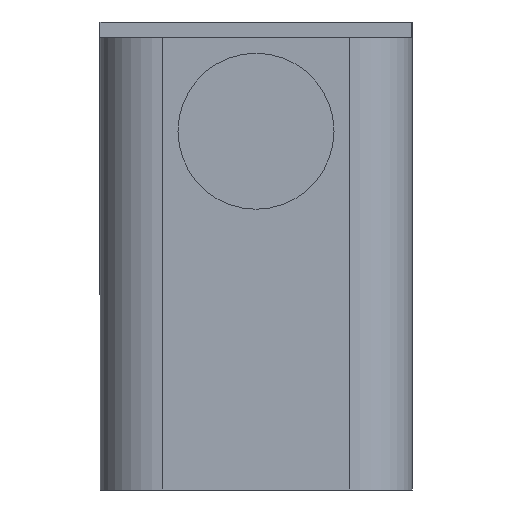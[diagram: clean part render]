
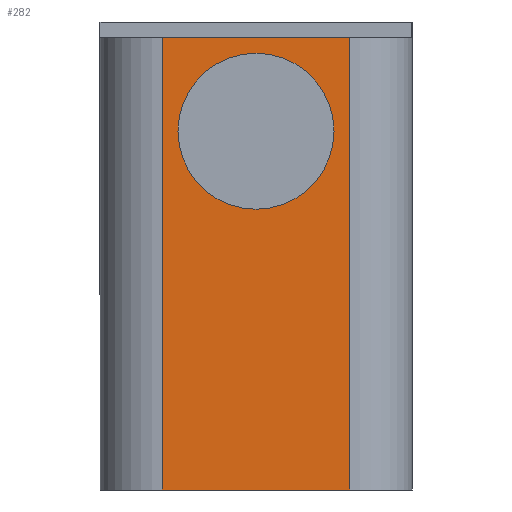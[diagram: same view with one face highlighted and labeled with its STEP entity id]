
A CAD part, front view. The second image highlights one B-rep face of the part: STEP entity #282.
In plain terms, the highlighted planar face has unit normal (0, -1, 0).
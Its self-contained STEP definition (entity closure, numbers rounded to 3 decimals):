
#30 = VERTEX_POINT ( 'NONE', #275 ) ;
#78 = CARTESIAN_POINT ( 'NONE',  ( -5., -12., 14.5 ) ) ;
#83 = DIRECTION ( 'NONE',  ( 0., 0., 1. ) ) ;
#115 = VERTEX_POINT ( 'NONE', #788 ) ;
#134 = CARTESIAN_POINT ( 'NONE',  ( -3., -12., 14.5 ) ) ;
#136 = ORIENTED_EDGE ( 'NONE', *, *, #987, .F. ) ;
#140 = ORIENTED_EDGE ( 'NONE', *, *, #849, .T. ) ;
#152 = AXIS2_PLACEMENT_3D ( 'NONE', #840, #676, #269 ) ;
#177 = ORIENTED_EDGE ( 'NONE', *, *, #285, .T. ) ;
#197 = VECTOR ( 'NONE', #413, 1000. ) ;
#219 = CIRCLE ( 'NONE', #537, 2.5 ) ;
#229 = EDGE_CURVE ( 'NONE', #1034, #815, #698, .T. ) ;
#249 = FACE_BOUND ( 'NONE', #746, .T. ) ;
#269 = DIRECTION ( 'NONE',  ( 0., 0., 1. ) ) ;
#273 = CIRCLE ( 'NONE', #152, 2.5 ) ;
#275 = CARTESIAN_POINT ( 'NONE',  ( 0., -12., 9. ) ) ;
#282 = ADVANCED_FACE ( 'NONE', ( #249, #560 ), #889, .F. ) ;
#285 = EDGE_CURVE ( 'NONE', #712, #115, #637, .T. ) ;
#321 = ORIENTED_EDGE ( 'NONE', *, *, #924, .F. ) ;
#324 = DIRECTION ( 'NONE',  ( 0., 0., 1. ) ) ;
#383 = CARTESIAN_POINT ( 'NONE',  ( 3., -12., 14.5 ) ) ;
#384 = ORIENTED_EDGE ( 'NONE', *, *, #229, .T. ) ;
#394 = CARTESIAN_POINT ( 'NONE',  ( 0., -12., 14. ) ) ;
#405 = CARTESIAN_POINT ( 'NONE',  ( 3., -12., 0. ) ) ;
#412 = DIRECTION ( 'NONE',  ( 0., 1., 0. ) ) ;
#413 = DIRECTION ( 'NONE',  ( 1., 0., 0. ) ) ;
#421 = VECTOR ( 'NONE', #569, 1000. ) ;
#489 = CARTESIAN_POINT ( 'NONE',  ( -5., -12., 15. ) ) ;
#493 = DIRECTION ( 'NONE',  ( 0., -1., 0. ) ) ;
#537 = AXIS2_PLACEMENT_3D ( 'NONE', #648, #493, #83 ) ;
#560 = FACE_OUTER_BOUND ( 'NONE', #641, .T. ) ;
#569 = DIRECTION ( 'NONE',  ( 0., 0., -1. ) ) ;
#585 = EDGE_CURVE ( 'NONE', #886, #30, #273, .T. ) ;
#637 = LINE ( 'NONE', #816, #421 ) ;
#641 = EDGE_LOOP ( 'NONE', ( #136, #177, #140, #384 ) ) ;
#648 = CARTESIAN_POINT ( 'NONE',  ( 0., -12., 11.5 ) ) ;
#670 = VECTOR ( 'NONE', #324, 1000. ) ;
#676 = DIRECTION ( 'NONE',  ( 0., -1., 0. ) ) ;
#679 = VECTOR ( 'NONE', #946, 1000. ) ;
#698 = LINE ( 'NONE', #947, #670 ) ;
#699 = ORIENTED_EDGE ( 'NONE', *, *, #585, .F. ) ;
#712 = VERTEX_POINT ( 'NONE', #134 ) ;
#731 = LINE ( 'NONE', #864, #679 ) ;
#746 = EDGE_LOOP ( 'NONE', ( #699, #321 ) ) ;
#788 = CARTESIAN_POINT ( 'NONE',  ( -3., -12., 0. ) ) ;
#809 = LINE ( 'NONE', #78, #197 ) ;
#815 = VERTEX_POINT ( 'NONE', #383 ) ;
#816 = CARTESIAN_POINT ( 'NONE',  ( -3., -12., 15. ) ) ;
#840 = CARTESIAN_POINT ( 'NONE',  ( 0., -12., 11.5 ) ) ;
#849 = EDGE_CURVE ( 'NONE', #115, #1034, #731, .T. ) ;
#864 = CARTESIAN_POINT ( 'NONE',  ( -5., -12., 0. ) ) ;
#886 = VERTEX_POINT ( 'NONE', #394 ) ;
#889 = PLANE ( 'NONE',  #976 ) ;
#924 = EDGE_CURVE ( 'NONE', #30, #886, #219, .T. ) ;
#946 = DIRECTION ( 'NONE',  ( 1., 0., 0. ) ) ;
#947 = CARTESIAN_POINT ( 'NONE',  ( 3., -12., 15. ) ) ;
#953 = DIRECTION ( 'NONE',  ( 0., 0., 1. ) ) ;
#976 = AXIS2_PLACEMENT_3D ( 'NONE', #489, #412, #953 ) ;
#987 = EDGE_CURVE ( 'NONE', #712, #815, #809, .T. ) ;
#1034 = VERTEX_POINT ( 'NONE', #405 ) ;
